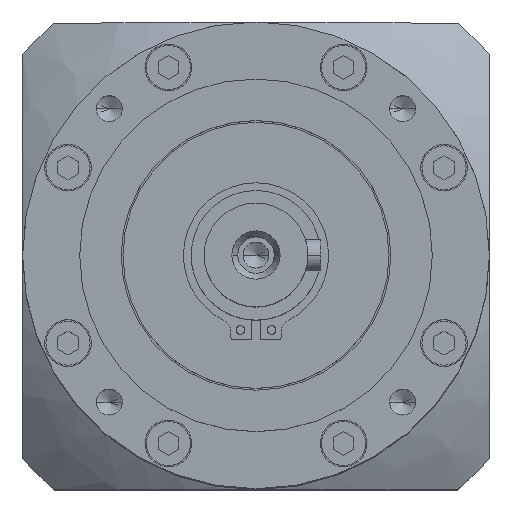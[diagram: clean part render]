
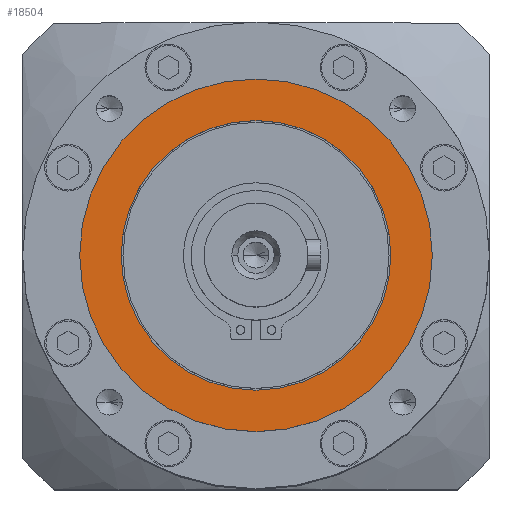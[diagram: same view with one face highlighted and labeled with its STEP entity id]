
A CAD part, top view. The second image highlights one B-rep face of the part: STEP entity #18504.
In plain terms, the highlighted planar face has unit normal (0, 0, 1).
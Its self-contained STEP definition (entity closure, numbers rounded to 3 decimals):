
#574 = AXIS2_PLACEMENT_3D ( 'NONE', #7214, #21735, #11009 ) ;
#1539 = DIRECTION ( 'NONE',  ( 1., 0., 0. ) ) ;
#1740 = VERTEX_POINT ( 'NONE', #2025 ) ;
#2025 = CARTESIAN_POINT ( 'NONE',  ( -34., 0., 0. ) ) ;
#2148 = CARTESIAN_POINT ( 'NONE',  ( -26., 0., 0. ) ) ;
#2506 = ORIENTED_EDGE ( 'NONE', *, *, #7774, .T. ) ;
#2966 = ORIENTED_EDGE ( 'NONE', *, *, #20811, .T. ) ;
#3655 = CARTESIAN_POINT ( 'NONE',  ( 0., 0., 0. ) ) ;
#5061 = VERTEX_POINT ( 'NONE', #12439 ) ;
#5121 = VERTEX_POINT ( 'NONE', #13217 ) ;
#5445 = DIRECTION ( 'NONE',  ( 1., 0., 0. ) ) ;
#6294 = EDGE_CURVE ( 'NONE', #22137, #5121, #18669, .T. ) ;
#6865 = ORIENTED_EDGE ( 'NONE', *, *, #7805, .F. ) ;
#7214 = CARTESIAN_POINT ( 'NONE',  ( 0., 26., 0. ) ) ;
#7732 = DIRECTION ( 'NONE',  ( 0., 0., 1. ) ) ;
#7774 = EDGE_CURVE ( 'NONE', #1740, #5061, #14005, .T. ) ;
#7805 = EDGE_CURVE ( 'NONE', #5121, #22137, #18073, .T. ) ;
#8820 = DIRECTION ( 'NONE',  ( 0., 0., 1. ) ) ;
#8951 = PLANE ( 'NONE',  #574 ) ;
#9242 = EDGE_LOOP ( 'NONE', ( #2966, #2506 ) ) ;
#10466 = EDGE_LOOP ( 'NONE', ( #6865, #19326 ) ) ;
#11009 = DIRECTION ( 'NONE',  ( 0., -1., 0. ) ) ;
#11452 = FACE_BOUND ( 'NONE', #10466, .T. ) ;
#12439 = CARTESIAN_POINT ( 'NONE',  ( 34., 0., 0. ) ) ;
#12597 = AXIS2_PLACEMENT_3D ( 'NONE', #3655, #16645, #5445 ) ;
#12740 = DIRECTION ( 'NONE',  ( 0., 0., 1. ) ) ;
#13217 = CARTESIAN_POINT ( 'NONE',  ( 26., 0., 0. ) ) ;
#13651 = AXIS2_PLACEMENT_3D ( 'NONE', #18797, #7732, #20527 ) ;
#13941 = CIRCLE ( 'NONE', #13651, 34. ) ;
#14005 = CIRCLE ( 'NONE', #18826, 34. ) ;
#16645 = DIRECTION ( 'NONE',  ( 0., 0., 1. ) ) ;
#18073 = CIRCLE ( 'NONE', #21121, 26. ) ;
#18504 = ADVANCED_FACE ( 'NONE', ( #21029, #11452 ), #8951, .F. ) ;
#18669 = CIRCLE ( 'NONE', #12597, 26. ) ;
#18797 = CARTESIAN_POINT ( 'NONE',  ( 0., 0., 0. ) ) ;
#18826 = AXIS2_PLACEMENT_3D ( 'NONE', #19781, #8820, #21478 ) ;
#19326 = ORIENTED_EDGE ( 'NONE', *, *, #6294, .F. ) ;
#19781 = CARTESIAN_POINT ( 'NONE',  ( 0., 0., 0. ) ) ;
#20527 = DIRECTION ( 'NONE',  ( 1., 0., 0. ) ) ;
#20811 = EDGE_CURVE ( 'NONE', #5061, #1740, #13941, .T. ) ;
#21029 = FACE_OUTER_BOUND ( 'NONE', #9242, .T. ) ;
#21121 = AXIS2_PLACEMENT_3D ( 'NONE', #23238, #12740, #1539 ) ;
#21478 = DIRECTION ( 'NONE',  ( 1., 0., 0. ) ) ;
#21735 = DIRECTION ( 'NONE',  ( 0., 0., -1. ) ) ;
#22137 = VERTEX_POINT ( 'NONE', #2148 ) ;
#23238 = CARTESIAN_POINT ( 'NONE',  ( 0., 0., 0. ) ) ;
